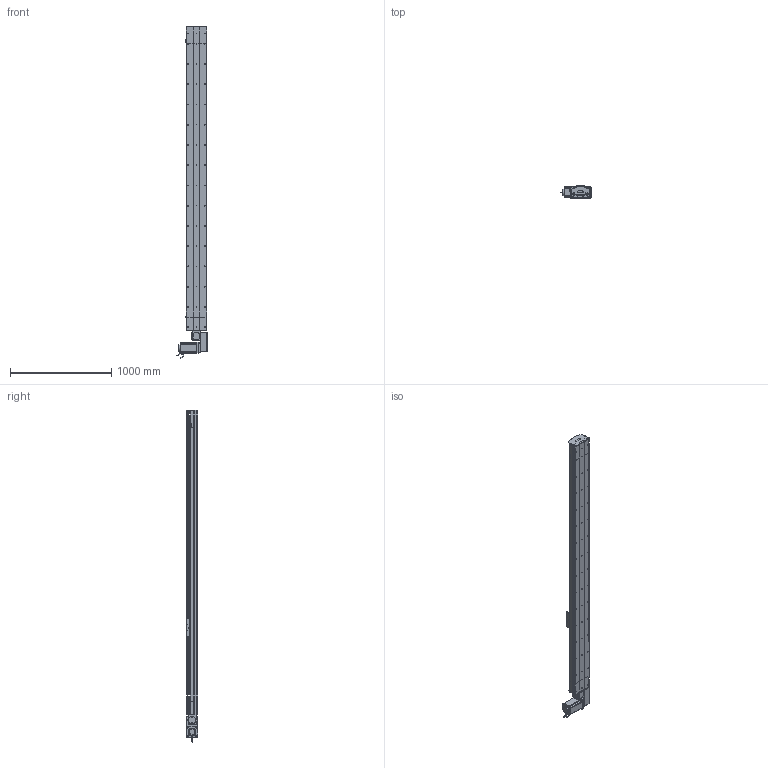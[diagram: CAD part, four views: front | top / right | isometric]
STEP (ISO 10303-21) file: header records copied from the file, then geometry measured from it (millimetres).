
FILE_DESCRIPTION (( 'STEP AP214' ), '1' );
FILE_NAME ('D20 TBH LH S2700.STEP', '2010-07-01T08:18:23', ( 'Conseil Régional Haute-Normandie' ), ( 'Conseil Régional Haute-Normandie' ), 'SwSTEP 2.0', 'SolidWorks 2010', '' );
FILE_SCHEMA (( 'AUTOMOTIVE_DESIGN' ));
Length unit declared in the file: millimetre
Products named in the file (40): vis M5 L70_Default; tail D20+100_Default; vis M5 L8 90°_Default; tete d''axe poulie D20B; couvercle tail D20_Default; Couroie tail D20_Default; vis M5 L5_Default; avant 110BLDC170A-630x; Conecteur_Default; Conecteur2_Default; codeur 110BLDC170A-630x; corps 110BLDC170A-630x; vis M5 L25_Default; vis M5 L12_Default; corpl tail D20 +100_Default; plaque de  bout tail D20_Default; poulie tail D20_Default; Moteur motionking 110BLDC170A-640x; Plaque racord D20LH_Default; Renvoi LH D20_Default; vis M8 L12_Default; clavette; rail tail D20; couvercle head D20_Default; rail head D20; corpl head D20_Default; head LH_Default; rail + couroie  D20 S2700; D20 TBH LH S2700; cache D20_Default; cache arbre D20_Default; Chariot D20B; chariot D20B_Default; couroie_Default; Course B L2700_Default; guide D20B; plaque de  bout head D20B LH_Default; poulie head D20_Default; couvercle D20 S2700_Default; corp D20 S2700_Default
Assembly tree (71 placements, depth 4):
  D20 TBH LH S2700
    head LH_Default
      couvercle head D20_Default
      vis M5 L5_Default  x4
      vis M5 L12_Default  x10
      Moteur motionking 110BLDC170A-640x
        clavette
        codeur 110BLDC170A-630x
        Conecteur2_Default
        Conecteur_Default
        corps 110BLDC170A-630x
        avant 110BLDC170A-630x
      rail head D20
      vis M5 L70_Default  x4
      Plaque racord D20LH_Default
      vis M5 L25_Default  x2
      vis M8 L12_Default  x4
      cache D20_Default  x2
      corpl head D20_Default
      poulie head D20_Default
      Renvoi LH D20_Default
      plaque de  bout head D20B LH_Default
      couroie_Default
      cache arbre D20_Default
    chariot D20B_Default
      vis M5 L12_Default  x4
      Chariot D20B
      guide D20B  x2
    Course B L2700_Default
      corp D20 S2700_Default
      rail + couroie  D20 S2700
      couvercle D20 S2700_Default
    tail D20+100_Default
      vis M5 L25_Default  x2
      vis M5 L12_Default  x4
      Couroie tail D20_Default
      rail tail D20
      plaque de  bout tail D20_Default
      poulie tail D20_Default
      vis M5 L8 90°_Default  x2
      tete d''axe poulie D20B
      couvercle tail D20_Default
      corpl tail D20 +100_Default
Bounding box: 304.2 x 115.7 x 3280 mm (x, y, z)
Volume: 25059388.6 mm3; surface area: 6145371.2 mm2
Topology: 95 solids, 95 shells, 2847 faces, 7299 edges, 4717 vertices
Faces by surface type: plane 1644, cylinder 879, bspline 136, cone 99, torus 89
Entity records: 91826 total; most frequent: CARTESIAN_POINT 29799, ORIENTED_EDGE 11254, DIRECTION 10570, EDGE_CURVE 5627, VERTEX_POINT 3703, LINE 3582, VECTOR 3582, AXIS2_PLACEMENT_3D 3494
